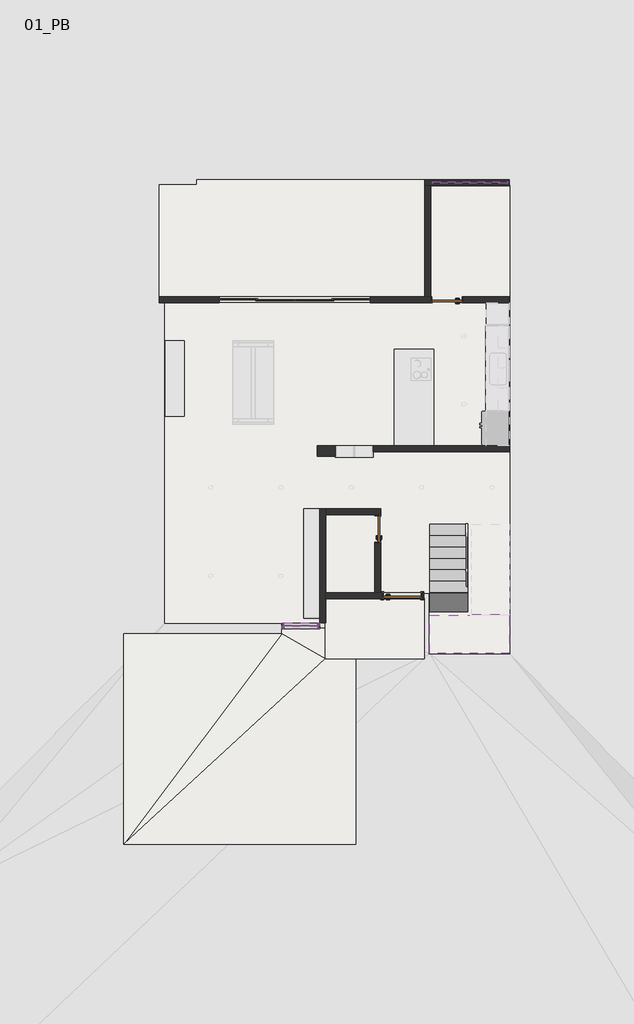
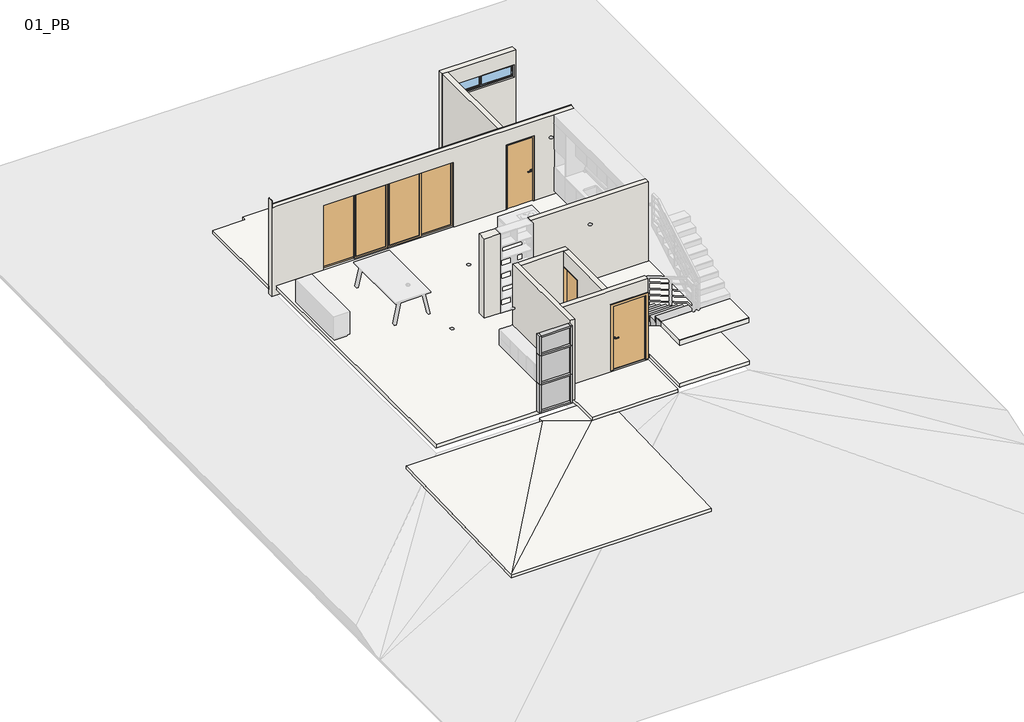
# One storey, part 1 of 2: 10 members, 9 walls, 7 slabs, 5 doors, 3 plates, 1 stair flight, 1 window.
"""IFC4 building model written with IfcOpenShell, lengths in millimetres."""

from ifc_helpers import new_model, si_unit, frame, origin, place, context, project, spatial, polyline, outline, extrude, faceted_brep, transform, mapped, element, save
from components import door_0_75x2_10_m_d5b717f6, door_0_80x2_10_m_f795b408, door_1_00x2_10_m_2c351bbd, door_2_10x2_00_m_3076c86e, door_2_10x2_00_m_72350d4a, montante_rectangular_50_x_150mm_negro_35d6a770, montante_rectangular_50_x_150mm_negro_3ddb3363, montante_rectangular_50_x_150mm_negro_4f41d6b7, montante_rectangular_50_x_150mm_negro_e77f96f9, panel_de_sistema_cristal_6_mm_519516f2, panel_de_sistema_cristal_6_mm_005e9894, panel_de_sistema_cristal_6_mm_a6e31bd9, window_2_00_x_0_40_m_702c2130

model = new_model("IFC4")

# Units and contexts
model_context = context("Model", 3, world=origin())
ifc_project = project(units=[si_unit("LENGTHUNIT", "METRE", prefix="MILLI")], contexts=[model_context])

# Site, building, storey
site = spatial("IfcSite", under=ifc_project)
building = spatial("IfcBuilding", under=site)
storey = spatial("IfcBuildingStorey", under=building, Name="01_PB", Elevation=300.0)

# Doors
placement = place(None, origin())
door_0_75x2_10_m_shape = door_0_75x2_10_m_d5b717f6(model_context)
element("IfcDoor", 1, ObjectType="PUERTA DE  MADERA-CEDRO : 0.75X2.10 M", at=placement, inside=storey, context=model_context, shape_type="MappedRepresentation", body=[
    mapped(door_0_75x2_10_m_shape, transform((9611.5346352, 2261.9853574, 300.0), x_axis=(0.0, -1.0, 0.0), y_axis=(1.0, 0.0, 0.0), z_axis=(0.0, 0.0, 1.0))),
])
door_0_80x2_10_m_shape = door_0_80x2_10_m_f795b408(model_context)
element("IfcDoor", 2, ObjectType="PUERTA DE  MADERA-CEDRO : 0.80X2.10 M", at=placement, inside=storey, context=model_context, shape_type="MappedRepresentation", body=[
    mapped(door_0_80x2_10_m_shape, transform((11441.5346352, 8321.9853574, 300.0), x_axis=(1.0, 0.0, 0.0), y_axis=(0.0, 1.0, 0.0), z_axis=(0.0, 0.0, 1.0))),
])
door_1_00x2_10_m_shape = door_1_00x2_10_m_2c351bbd(model_context)
element("IfcDoor", 3, ObjectType="PUERTA DE  MADERA-CEDRO : 1.00x2.10 M", at=placement, inside=storey, context=model_context, shape_type="MappedRepresentation", body=[
    mapped(door_1_00x2_10_m_shape, transform((10261.5346352, 501.9853574, 300.0), x_axis=(-1.0, 0.0, 0.0), y_axis=(0.0, -1.0, 0.0), z_axis=(0.0, 0.0, 1.0))),
])
door_2_10x2_00_m_shape = door_2_10x2_00_m_3076c86e(model_context)
element("IfcDoor", 4, ObjectType="PUERTA CORREDIZA DE CRISTAL : 2.10x2.00 m", at=placement, inside=storey, context=model_context, shape_type="MappedRepresentation", body=[
    mapped(door_2_10x2_00_m_shape, transform((8416.5346352, 8321.9853574, 300.0), x_axis=(1.0, 0.0, 0.0), y_axis=(0.0, 1.0, 0.0), z_axis=(0.0, 0.0, 1.0))),
])
door_2_10x2_00_m_2_shape = door_2_10x2_00_m_72350d4a(model_context)
element("IfcDoor", 5, ObjectType="PUERTA CORREDIZA DE CRISTAL : 2.10x2.00 m", at=placement, inside=storey, context=model_context, shape_type="MappedRepresentation", body=[
    mapped(door_2_10x2_00_m_2_shape, transform((6416.5346352, 8321.9853574, 300.0), x_axis=(-1.0, 0.0, 0.0), y_axis=(0.0, -1.0, 0.0), z_axis=(0.0, 0.0, 1.0))),
])

# Members
montante_rectangular_50_x_150mm_negro_shape = montante_rectangular_50_x_150mm_negro_35d6a770(model_context)
element("IfcMember", 6, ObjectType="Montante rectangular : 50 x 150mm Negro", at=placement, inside=storey, context=model_context, shape_type="MappedRepresentation", body=[
    mapped(montante_rectangular_50_x_150mm_negro_shape, transform((8021.5346352, -298.0146426, 2800.0), x_axis=(0.0, 0.0, 1.0), y_axis=(0.0, -1.0, 0.0), z_axis=(1.0, 0.0, 0.0))),
])
element("IfcMember", 7, ObjectType="Montante rectangular : 50 x 150mm Negro", at=placement, inside=storey, context=model_context, shape_type="MappedRepresentation", body=[
    mapped(montante_rectangular_50_x_150mm_negro_shape, transform((7121.5346352, -298.0146426, 300.0), x_axis=(0.0, 0.0, -1.0), y_axis=(0.0, -1.0, 0.0), z_axis=(-1.0, 0.0, 0.0))),
])
montante_rectangular_50_x_150mm_negro_2_shape = montante_rectangular_50_x_150mm_negro_3ddb3363(model_context)
element("IfcMember", 8, ObjectType="Montante rectangular : 50 x 150mm Negro", at=placement, inside=storey, context=model_context, shape_type="MappedRepresentation", body=[
    mapped(montante_rectangular_50_x_150mm_negro_2_shape, transform((8021.5346352, -298.0146426, 2166.6666667), x_axis=(0.0, 0.0, 1.0), y_axis=(0.0, -1.0, 0.0), z_axis=(1.0, 0.0, 0.0))),
])
element("IfcMember", 9, ObjectType="Montante rectangular : 50 x 150mm Negro", at=placement, inside=storey, context=model_context, shape_type="MappedRepresentation", body=[
    mapped(montante_rectangular_50_x_150mm_negro_2_shape, transform((8021.5346352, -298.0146426, 1233.3333333), x_axis=(0.0, 0.0, 1.0), y_axis=(0.0, -1.0, 0.0), z_axis=(1.0, 0.0, 0.0))),
])
montante_rectangular_50_x_150mm_negro_3_shape = montante_rectangular_50_x_150mm_negro_4f41d6b7(model_context)
element("IfcMember", 10, ObjectType="Montante rectangular : 50 x 150mm Negro", at=placement, inside=storey, context=model_context, shape_type="MappedRepresentation", body=[
    mapped(montante_rectangular_50_x_150mm_negro_3_shape, transform((8071.5346352, -298.0146426, 300.0), x_axis=(1.0, 0.0, 0.0), y_axis=(0.0, -1.0, 0.0), z_axis=(0.0, 0.0, -1.0))),
])
element("IfcMember", 11, ObjectType="Montante rectangular : 50 x 150mm Negro", at=placement, inside=storey, context=model_context, shape_type="MappedRepresentation", body=[
    mapped(montante_rectangular_50_x_150mm_negro_3_shape, transform((8071.5346352, -298.0146426, 1233.3333333), x_axis=(1.0, 0.0, 0.0), y_axis=(0.0, -1.0, 0.0), z_axis=(0.0, 0.0, -1.0))),
])
element("IfcMember", 12, ObjectType="Montante rectangular : 50 x 150mm Negro", at=placement, inside=storey, context=model_context, shape_type="MappedRepresentation", body=[
    mapped(montante_rectangular_50_x_150mm_negro_3_shape, transform((7071.5346352, -298.0146426, 2166.6666667), x_axis=(-1.0, 0.0, 0.0), y_axis=(0.0, -1.0, 0.0), z_axis=(0.0, 0.0, 1.0))),
])
element("IfcMember", 13, ObjectType="Montante rectangular : 50 x 150mm Negro", at=placement, inside=storey, context=model_context, shape_type="MappedRepresentation", body=[
    mapped(montante_rectangular_50_x_150mm_negro_3_shape, transform((7071.5346352, -298.0146426, 1233.3333333), x_axis=(-1.0, 0.0, 0.0), y_axis=(0.0, -1.0, 0.0), z_axis=(0.0, 0.0, 1.0))),
])
montante_rectangular_50_x_150mm_negro_4_shape = montante_rectangular_50_x_150mm_negro_e77f96f9(model_context)
element("IfcMember", 14, ObjectType="Montante rectangular : 50 x 150mm Negro", at=placement, inside=storey, context=model_context, shape_type="MappedRepresentation", body=[
    mapped(montante_rectangular_50_x_150mm_negro_4_shape, transform((7071.5346352, -298.0146426, 2800.0), x_axis=(-1.0, 0.0, 0.0), y_axis=(0.0, -1.0, 0.0), z_axis=(0.0, 0.0, 1.0))),
])
element("IfcMember", 15, ObjectType="Montante rectangular : 50 x 150mm Negro", at=placement, inside=storey, context=model_context, shape_type="MappedRepresentation", body=[
    mapped(montante_rectangular_50_x_150mm_negro_4_shape, transform((8071.5346352, -298.0146426, 2166.6666667), x_axis=(1.0, 0.0, 0.0), y_axis=(0.0, -1.0, 0.0), z_axis=(0.0, 0.0, -1.0))),
])

# Plates
panel_de_sistema_cristal_6_mm_shape = panel_de_sistema_cristal_6_mm_519516f2(model_context)
element("IfcPlate", 16, ObjectType="Panel de sistema : CRISTAL 6 MM", at=placement, inside=storey, context=model_context, shape_type="MappedRepresentation", body=[
    mapped(panel_de_sistema_cristal_6_mm_shape, transform((7571.5346352, -298.0146426, 350.0), x_axis=(1.0, 0.0, 0.0), y_axis=(0.0, 1.0, 0.0), z_axis=(0.0, 0.0, 1.0))),
])
panel_de_sistema_cristal_6_mm_2_shape = panel_de_sistema_cristal_6_mm_005e9894(model_context)
element("IfcPlate", 17, ObjectType="Panel de sistema : CRISTAL 6 MM", at=placement, inside=storey, context=model_context, shape_type="MappedRepresentation", body=[
    mapped(panel_de_sistema_cristal_6_mm_2_shape, transform((7571.5346352, -298.0146426, 1258.3333333), x_axis=(1.0, 0.0, 0.0), y_axis=(0.0, 1.0, 0.0), z_axis=(0.0, 0.0, 1.0))),
])
panel_de_sistema_cristal_6_mm_3_shape = panel_de_sistema_cristal_6_mm_a6e31bd9(model_context)
element("IfcPlate", 18, ObjectType="Panel de sistema : CRISTAL 6 MM", at=placement, inside=storey, context=model_context, shape_type="MappedRepresentation", body=[
    mapped(panel_de_sistema_cristal_6_mm_3_shape, transform((7571.5346352, -298.0146426, 2191.6666667), x_axis=(1.0, 0.0, 0.0), y_axis=(0.0, 1.0, 0.0), z_axis=(0.0, 0.0, 1.0))),
])

# Slabs
element("IfcSlab", 19, ObjectType="FIRME DE CONCRETO 10 CM + PISO 60X60", at=placement, inside=storey, context=model_context, shape_type="Brep", body=[
    faceted_brep([(3976.5346352, 8256.9853574, 185.0), (10996.5346352, 8256.9853574, 185.0), (10996.5346352, 8401.9853574, 185.0), (10996.5346352, 11341.9853574, 185.0), (10996.5346352, 11356.9853574, 185.0), (13091.5346352, 11356.9853574, 185.0), (13106.5346352, 11356.9853574, 185.0), (13106.5346352, -1018.0146426, 185.0), (13106.5346352, -1033.0146426, 185.0), (10991.5346352, -1033.0146426, 185.0), (10976.5346352, -1033.0146426, 185.0), (10976.5346352, 566.9853574, 185.0), (8086.5346352, 566.9853574, 185.0), (8086.5346352, -233.0146426, 185.0), (3976.5346352, -233.0146426, 185.0), (3976.5346352, -218.0146426, 185.0), (3976.5346352, 8241.9853574, 185.0), (3976.5346352, 8256.9853574, 300.0), (3976.5346352, 8241.9853574, 300.0), (3976.5346352, -218.0146426, 300.0), (3976.5346352, -233.0146426, 300.0), (8086.5346352, -233.0146426, 300.0), (8086.5346352, 566.9853574, 300.0), (10976.5346352, 566.9853574, 300.0), (10976.5346352, -1033.0146426, 300.0), (10991.5346352, -1033.0146426, 300.0), (13106.5346352, -1033.0146426, 300.0), (13106.5346352, -1018.0146426, 300.0), (13106.5346352, 11356.9853574, 300.0), (13091.5346352, 11356.9853574, 300.0), (10996.5346352, 11356.9853574, 300.0), (10996.5346352, 11341.9853574, 300.0), (10996.5346352, 8401.9853574, 300.0), (10996.5346352, 8256.9853574, 300.0), (9416.5346352, 8256.9853574, 300.0), (5416.5346352, 8256.9853574, 300.0)], [[[0, 1, 2, 3, 4, 5, 6, 7, 8, 9, 10, 11, 12, 13, 14, 15, 16]], [[17, 18, 19, 20, 21, 22, 23, 24, 25, 26, 27, 28, 29, 30, 31, 32, 33, 34, 35]], [[1, 0, 17, 35, 34, 33]], [[8, 7, 6, 28, 27, 26]], [[10, 9, 8, 26, 25, 24]], [[11, 10, 24, 23]], [[12, 11, 23, 22]], [[13, 12, 22, 21]], [[14, 13, 21, 20]], [[0, 16, 15, 14, 20, 19, 18, 17]], [[4, 3, 2, 1, 33, 32, 31, 30]], [[6, 5, 4, 30, 29, 28]]]),
])
element("IfcSlab", 20, ObjectType="FIRME DE CONCRETO EXT 10 CM", at=placement, inside=storey, context=model_context, shape_type="Brep", body=[
    faceted_brep([(10866.5346352, 8386.9853574, 150.0), (3981.5346352, 8386.9853574, 150.0), (3881.5346352, 8386.9853574, 150.0), (3831.5346352, 8386.9853574, 150.0), (3831.5346352, 8401.9853574, 150.0), (3831.5346352, 11361.9853574, 150.0), (4831.5346352, 11361.9853574, 150.0), (4831.5346352, 11501.9853574, 150.0), (10851.5346352, 11501.9853574, 150.0), (10866.5346352, 11501.9853574, 150.0), (10866.5346352, 11451.9853574, 150.0), (10866.5346352, 11351.9853574, 150.0), (10866.5346352, 11341.9853574, 150.0), (10866.5346352, 8401.9853574, 150.0), (3831.5346352, 8386.9853574, 250.0), (10866.5346352, 8386.9853574, 250.0), (10866.5346352, 8401.9853574, 250.0), (10866.5346352, 11341.9853574, 250.0), (10866.5346352, 11501.9853574, 250.0), (10851.5346352, 11501.9853574, 250.0), (4831.5346352, 11501.9853574, 250.0), (4831.5346352, 11361.9853574, 250.0), (3831.5346352, 11361.9853574, 250.0), (3831.5346352, 8401.9853574, 250.0)], [[[0, 1, 2, 3, 4, 5, 6, 7, 8, 9, 10, 11, 12, 13]], [[14, 15, 16, 17, 18, 19, 20, 21, 22, 23]], [[3, 14, 23, 22, 5, 4]], [[18, 9, 8, 7, 20, 19]], [[3, 2, 1, 0, 15, 14]], [[21, 6, 5, 22]], [[6, 21, 20, 7]], [[0, 13, 12, 11, 10, 9, 18, 17, 16, 15]]]),
])
element("IfcSlab", 21, ObjectType="FIRME DE CONCRETO EXT 10 CM", at=placement, inside=storey, context=model_context, shape_type="Brep", body=[
    faceted_brep([(2896.5346352, -6078.0146426, -100.0), (2896.5346352, -6078.0146426, 0.0), (2896.5346352, -513.0146426, 150.0), (2896.5346352, -513.0146426, 50.0), (2896.5346352, -2368.0146426, 0.0), (2911.5346352, -513.0146426, 150.0), (3831.5346352, -513.0146426, 150.0), (7071.5346352, -513.0146426, 150.0), (7071.5346352, -513.0146426, 50.0), (3831.5346352, -513.0146426, 50.0), (2911.5346352, -513.0146426, 50.0), (9031.5346352, -1163.0146426, 50.0), (9031.5346352, -1163.0146426, 150.0), (9031.5346352, -6078.0146426, 0.0), (9031.5346352, -6078.0146426, -100.0), (2911.5346352, -6078.0146426, 0.0), (8216.5346352, -363.0146426, 50.0), (8216.5346352, -363.0146426, 150.0), (8216.5346352, -378.0146426, 150.0), (8216.5346352, -1163.0146426, 150.0), (8216.5346352, -1163.0146426, 50.0), (8216.5346352, -378.0146426, 50.0), (7071.5346352, -378.0146426, 150.0), (7071.5346352, -363.0146426, 150.0), (7071.5346352, -363.0146426, 50.0), (7071.5346352, -378.0146426, 50.0), (2911.5346352, -6064.1565599, 0.4229323), (2911.5346352, -6058.0206306, 0.5389222), (7060.2812659, -528.0146426, 149.5956873), (7060.2812659, -528.0146426, 49.5956873)], [[[0, 1, 2, 3, 4]], [[3, 2, 5, 6, 7, 8, 9, 10]], [[11, 12, 13, 14]], [[14, 13, 15, 1, 0]], [[16, 17, 18, 19, 20, 21]], [[20, 19, 12, 11]], [[8, 7, 22, 23, 24, 25]], [[24, 23, 17, 16]], [[13, 12, 19, 26, 1, 15]], [[14, 0, 20, 11]], [[2, 1, 27, 28, 7, 6, 5]], [[1, 26, 19, 7, 28, 27]], [[19, 18, 17, 23, 22, 7]], [[3, 10, 9, 8, 29, 0, 4]], [[0, 29, 8, 20]], [[20, 8, 25, 24, 16, 21]]]),
])
element("IfcSlab", 22, ObjectType="FIRME DE CONCRETO EXT 10 CM", at=placement, inside=storey, context=model_context, shape_type="Brep", body=[
    faceted_brep([(10846.5346352, -1163.0146426, 150.0), (10831.5346352, -1163.0146426, 150.0), (8316.5346352, -1163.0146426, 150.0), (8216.5346352, -1163.0146426, 150.0), (8216.5346352, -1113.0146426, 150.0), (8216.5346352, -1013.0146426, 150.0), (8216.5346352, 436.9853574, 150.0), (8316.5346352, 436.9853574, 150.0), (10831.5346352, 436.9853574, 150.0), (10846.5346352, 436.9853574, 150.0), (10846.5346352, -1013.0146426, 150.0), (10846.5346352, -1113.0146426, 150.0), (10846.5346352, -1163.0146426, 250.0), (10846.5346352, 436.9853574, 250.0), (10831.5346352, 436.9853574, 250.0), (8216.5346352, 436.9853574, 250.0), (8216.5346352, -1163.0146426, 250.0), (10831.5346352, -1163.0146426, 250.0)], [[[0, 1, 2, 3, 4, 5, 6, 7, 8, 9, 10, 11]], [[12, 13, 14, 15, 16, 17]], [[6, 5, 4, 3, 16, 15]], [[9, 8, 7, 6, 15, 14, 13]], [[0, 11, 10, 9, 13, 12]], [[3, 2, 1, 0, 12, 17, 16]]]),
])
element("IfcSlab", 23, ObjectType="10 CM", at=placement, inside=storey, context=model_context, shape_type="SolidModel", body=[
    faceted_brep([(11991.5346352, -18.0146426, 1680.0), (10991.5346352, -18.0146426, 1680.0), (10991.5346352, -1018.0146426, 1680.0), (13091.5346352, -1018.0146426, 1680.0), (13091.5346352, -56.6940141, 1680.0), (13091.5346352, -18.0146426, 1680.0), (13091.5346352, 1.9853574, 1680.0), (12091.5346352, 1.9853574, 1680.0), (12091.5346352, -18.0146426, 1680.0), (11991.5346352, -18.0146426, 1530.0), (10991.5346352, -18.0146426, 1530.0), (10991.5346352, -1018.0146426, 1530.0), (13091.5346352, -1018.0146426, 1530.0), (13091.5346352, -56.6940141, 1530.0), (13091.5346352, -18.0146426, 1552.5629668), (13091.5346352, 1.9853574, 1564.2296334), (12091.5346352, 1.9853574, 1564.2296334), (12091.5346352, -18.0146426, 1552.5629668), (12091.5346352, -18.0146426, 1530.0), (12091.5346352, -56.6940141, 1530.0)], [[[0, 1, 2, 3, 4, 5, 6, 7, 8]], [[1, 0, 9, 10]], [[2, 1, 10, 11]], [[3, 2, 11, 12]], [[3, 12, 13, 14, 5, 4]], [[6, 5, 14, 15]], [[7, 6, 15, 16]], [[8, 7, 16, 17]], [[0, 8, 17, 18, 9]], [[18, 19, 13, 12, 11, 10, 9]], [[13, 19, 17, 16, 15, 14]], [[19, 18, 17]]]),
    extrude(outline(polyline([(11991.5346352, -18.0146426), (12091.5346352, -18.0146426), (13091.5346352, -18.0146426), (13091.5346352, -1018.0146426), (10991.5346352, -1018.0146426), (10991.5346352, -18.0146426), (11991.5346352, -18.0146426)])), frame((0.0, 0.0, 1680.0), z_axis=(0.0, 0.0, 1.0), x_axis=(1.0, 0.0, 0.0)), (0.0, 0.0, 1.0), 20.0),
])
element("IfcSlab", 24, ObjectType="Plataforma exterior", at=placement, inside=storey, context=model_context, shape_type="SweptSolid", body=[
    extrude(outline(polyline([(10851.5346352, 8401.9853574), (3981.5346352, 8401.9853574), (3981.5346352, 11351.9853574), (10851.5346352, 11351.9853574), (10851.5346352, 8401.9853574)])), frame((0.0, 0.0, 184.0), z_axis=(0.0, 0.0, 1.0), x_axis=(1.0, 0.0, 0.0)), (0.0, 0.0, 1.0), 1.0),
])
element("IfcSlab", 25, ObjectType="Plataforma interior", at=placement, inside=storey, context=model_context, shape_type="SweptSolid", body=[
    extrude(outline(polyline([(3991.5346352, 8241.9853574), (11011.5346352, 8241.9853574), (11011.5346352, 11341.9853574), (13091.5346352, 11341.9853574), (13091.5346352, -1018.0146426), (10991.5346352, -1018.0146426), (10991.5346352, 581.9853574), (8071.5346352, 581.9853574), (8071.5346352, -218.0146426), (3991.5346352, -218.0146426), (3991.5346352, 8241.9853574)])), frame((0.0, 0.0, 180.0), z_axis=(0.0, 0.0, 1.0), x_axis=(1.0, 0.0, 0.0)), (0.0, 0.0, 1.0), 5.0),
])

# Stair flight
element("IfcStairFlight", 26, ObjectType="10 CM TRAMO LISO+ACABADO", at=placement, inside=storey, context=model_context, shape_type="SolidModel", body=[
    faceted_brep([(11991.5346352, 2061.9853574, 455.0), (11991.5346352, 2361.9853574, 455.0), (10991.5346352, 2361.9853574, 455.0), (10991.5346352, 2061.9853574, 455.0), (11991.5346352, 2061.9853574, 339.2296334), (11991.5346352, 2129.2361576, 300.0), (11991.5346352, 2361.9853574, 300.0), (10991.5346352, 2361.9853574, 300.0), (10991.5346352, 2129.2361576, 300.0), (10991.5346352, 2061.9853574, 339.2296334), (11991.5346352, 1761.9853574, 630.0), (11991.5346352, 2061.9853574, 630.0), (10991.5346352, 2061.9853574, 630.0), (10991.5346352, 1761.9853574, 630.0), (11991.5346352, 1761.9853574, 514.2296334), (10991.5346352, 1761.9853574, 514.2296334), (11991.5346352, 1461.9853574, 805.0), (11991.5346352, 1761.9853574, 805.0), (10991.5346352, 1761.9853574, 805.0), (10991.5346352, 1461.9853574, 805.0), (11991.5346352, 1461.9853574, 689.2296334), (10991.5346352, 1461.9853574, 689.2296334), (11991.5346352, 1161.9853574, 980.0), (11991.5346352, 1461.9853574, 980.0), (10991.5346352, 1461.9853574, 980.0), (10991.5346352, 1161.9853574, 980.0), (11991.5346352, 1161.9853574, 864.2296334), (10991.5346352, 1161.9853574, 864.2296334), (11991.5346352, 861.9853574, 1155.0), (11991.5346352, 1161.9853574, 1155.0), (10991.5346352, 1161.9853574, 1155.0), (10991.5346352, 861.9853574, 1155.0), (11991.5346352, 861.9853574, 1039.2296334), (10991.5346352, 861.9853574, 1039.2296334), (11991.5346352, 561.9853574, 1330.0), (11991.5346352, 861.9853574, 1330.0), (10991.5346352, 861.9853574, 1330.0), (10991.5346352, 561.9853574, 1330.0), (11991.5346352, 561.9853574, 1214.2296334), (10991.5346352, 561.9853574, 1214.2296334), (11991.5346352, 261.9853574, 1505.0), (11991.5346352, 561.9853574, 1505.0), (10991.5346352, 561.9853574, 1505.0), (10991.5346352, 261.9853574, 1505.0), (11991.5346352, 261.9853574, 1389.2296334), (10991.5346352, 261.9853574, 1389.2296334), (11991.5346352, 261.9853574, 1680.0), (10991.5346352, 261.9853574, 1680.0), (10991.5346352, 20.664729, 1680.0), (10991.5346352, -18.0146426, 1680.0), (11991.5346352, -18.0146426, 1680.0), (11991.5346352, 20.664729, 1680.0), (11991.5346352, -18.0146426, 1530.0), (11991.5346352, 20.664729, 1530.0), (10991.5346352, 20.664729, 1530.0), (10991.5346352, -18.0146426, 1530.0)], [[[0, 1, 2, 3]], [[1, 0, 4, 5, 6]], [[2, 1, 6, 7]], [[3, 2, 7, 8, 9]], [[10, 11, 12, 13]], [[11, 10, 14, 4, 0]], [[0, 3, 12, 11]], [[13, 12, 3, 9, 15]], [[16, 17, 18, 19]], [[17, 16, 20, 14, 10]], [[10, 13, 18, 17]], [[19, 18, 13, 15, 21]], [[22, 23, 24, 25]], [[23, 22, 26, 20, 16]], [[16, 19, 24, 23]], [[25, 24, 19, 21, 27]], [[28, 29, 30, 31]], [[29, 28, 32, 26, 22]], [[22, 25, 30, 29]], [[31, 30, 25, 27, 33]], [[34, 35, 36, 37]], [[35, 34, 38, 32, 28]], [[28, 31, 36, 35]], [[37, 36, 31, 33, 39]], [[40, 41, 42, 43]], [[41, 40, 44, 38, 34]], [[34, 37, 42, 41]], [[43, 42, 37, 39, 45]], [[46, 47, 48, 49, 50, 51]], [[40, 46, 51, 50, 52, 53, 44]], [[40, 43, 47, 46]], [[47, 43, 45, 54, 55, 49, 48]], [[50, 49, 55, 52]], [[7, 6, 5, 8]], [[53, 54, 45, 39, 33, 27, 21, 15, 9, 8, 5, 4, 14, 20, 26, 32, 38, 44]], [[54, 53, 52, 55]]]),
    extrude(outline(polyline([(10991.5346352, 2361.9853574), (10991.5346352, 2381.9853574), (11991.5346352, 2381.9853574), (11991.5346352, 2361.9853574), (10991.5346352, 2361.9853574)])), frame((0.0, 0.0, 300.0), z_axis=(0.0, 0.0, 1.0), x_axis=(1.0, 0.0, 0.0)), (0.0, 0.0, 1.0), 155.0),
    extrude(outline(polyline([(11991.5346352, 2081.9853574), (10991.5346352, 2081.9853574), (10991.5346352, 2381.9853574), (11991.5346352, 2381.9853574), (11991.5346352, 2081.9853574)])), frame((0.0, 0.0, 455.0), z_axis=(0.0, 0.0, 1.0), x_axis=(1.0, 0.0, 0.0)), (0.0, 0.0, 1.0), 20.0),
    extrude(outline(polyline([(10991.5346352, 2061.9853574), (10991.5346352, 2081.9853574), (11991.5346352, 2081.9853574), (11991.5346352, 2061.9853574), (10991.5346352, 2061.9853574)])), frame((0.0, 0.0, 455.0), z_axis=(0.0, 0.0, 1.0), x_axis=(1.0, 0.0, 0.0)), (0.0, 0.0, 1.0), 175.0),
    extrude(outline(polyline([(11991.5346352, 1781.9853574), (10991.5346352, 1781.9853574), (10991.5346352, 2081.9853574), (11991.5346352, 2081.9853574), (11991.5346352, 1781.9853574)])), frame((0.0, 0.0, 630.0), z_axis=(0.0, 0.0, 1.0), x_axis=(1.0, 0.0, 0.0)), (0.0, 0.0, 1.0), 20.0),
    extrude(outline(polyline([(10991.5346352, 1761.9853574), (10991.5346352, 1781.9853574), (11991.5346352, 1781.9853574), (11991.5346352, 1761.9853574), (10991.5346352, 1761.9853574)])), frame((0.0, 0.0, 630.0), z_axis=(0.0, 0.0, 1.0), x_axis=(1.0, 0.0, 0.0)), (0.0, 0.0, 1.0), 175.0),
    extrude(outline(polyline([(11991.5346352, 1481.9853574), (10991.5346352, 1481.9853574), (10991.5346352, 1781.9853574), (11991.5346352, 1781.9853574), (11991.5346352, 1481.9853574)])), frame((0.0, 0.0, 805.0), z_axis=(0.0, 0.0, 1.0), x_axis=(1.0, 0.0, 0.0)), (0.0, 0.0, 1.0), 20.0),
    extrude(outline(polyline([(10991.5346352, 1461.9853574), (10991.5346352, 1481.9853574), (11991.5346352, 1481.9853574), (11991.5346352, 1461.9853574), (10991.5346352, 1461.9853574)])), frame((0.0, 0.0, 805.0), z_axis=(0.0, 0.0, 1.0), x_axis=(1.0, 0.0, 0.0)), (0.0, 0.0, 1.0), 175.0),
    extrude(outline(polyline([(11991.5346352, 1181.9853574), (10991.5346352, 1181.9853574), (10991.5346352, 1481.9853574), (11991.5346352, 1481.9853574), (11991.5346352, 1181.9853574)])), frame((0.0, 0.0, 980.0), z_axis=(0.0, 0.0, 1.0), x_axis=(1.0, 0.0, 0.0)), (0.0, 0.0, 1.0), 20.0),
    extrude(outline(polyline([(10991.5346352, 1161.9853574), (10991.5346352, 1181.9853574), (11991.5346352, 1181.9853574), (11991.5346352, 1161.9853574), (10991.5346352, 1161.9853574)])), frame((0.0, 0.0, 980.0), z_axis=(0.0, 0.0, 1.0), x_axis=(1.0, 0.0, 0.0)), (0.0, 0.0, 1.0), 175.0),
    extrude(outline(polyline([(11991.5346352, 881.9853574), (10991.5346352, 881.9853574), (10991.5346352, 1181.9853574), (11991.5346352, 1181.9853574), (11991.5346352, 881.9853574)])), frame((0.0, 0.0, 1155.0), z_axis=(0.0, 0.0, 1.0), x_axis=(1.0, 0.0, 0.0)), (0.0, 0.0, 1.0), 20.0),
    extrude(outline(polyline([(10991.5346352, 861.9853574), (10991.5346352, 881.9853574), (11991.5346352, 881.9853574), (11991.5346352, 861.9853574), (10991.5346352, 861.9853574)])), frame((0.0, 0.0, 1155.0), z_axis=(0.0, 0.0, 1.0), x_axis=(1.0, 0.0, 0.0)), (0.0, 0.0, 1.0), 175.0),
    extrude(outline(polyline([(11991.5346352, 581.9853574), (10991.5346352, 581.9853574), (10991.5346352, 881.9853574), (11991.5346352, 881.9853574), (11991.5346352, 581.9853574)])), frame((0.0, 0.0, 1330.0), z_axis=(0.0, 0.0, 1.0), x_axis=(1.0, 0.0, 0.0)), (0.0, 0.0, 1.0), 20.0),
    extrude(outline(polyline([(10991.5346352, 561.9853574), (10991.5346352, 581.9853574), (11991.5346352, 581.9853574), (11991.5346352, 561.9853574), (10991.5346352, 561.9853574)])), frame((0.0, 0.0, 1330.0), z_axis=(0.0, 0.0, 1.0), x_axis=(1.0, 0.0, 0.0)), (0.0, 0.0, 1.0), 175.0),
    extrude(outline(polyline([(11991.5346352, 281.9853574), (10991.5346352, 281.9853574), (10991.5346352, 581.9853574), (11991.5346352, 581.9853574), (11991.5346352, 281.9853574)])), frame((0.0, 0.0, 1505.0), z_axis=(0.0, 0.0, 1.0), x_axis=(1.0, 0.0, 0.0)), (0.0, 0.0, 1.0), 20.0),
    extrude(outline(polyline([(10991.5346352, 261.9853574), (10991.5346352, 281.9853574), (11991.5346352, 281.9853574), (11991.5346352, 261.9853574), (10991.5346352, 261.9853574)])), frame((0.0, 0.0, 1505.0), z_axis=(0.0, 0.0, 1.0), x_axis=(1.0, 0.0, 0.0)), (0.0, 0.0, 1.0), 175.0),
    extrude(outline(polyline([(11991.5346352, -18.0146426), (10991.5346352, -18.0146426), (10991.5346352, 281.9853574), (11991.5346352, 281.9853574), (11991.5346352, -18.0146426)])), frame((0.0, 0.0, 1680.0), z_axis=(0.0, 0.0, 1.0), x_axis=(1.0, 0.0, 0.0)), (0.0, 0.0, 1.0), 20.0),
])

# Walls
element("IfcWall", 27, ObjectType="M_TABICÓN_28", at=placement, inside=storey, context=model_context, shape_type="SweptSolid", body=[
    extrude(outline(polyline([(8006.5346352, 4461.9853574), (8491.5346352, 4461.9853574), (8491.5346352, 4181.9853574), (8006.5346352, 4181.9853574), (8006.5346352, 4461.9853574)])), frame((0.0, 0.0, 300.0), z_axis=(0.0, 0.0, 1.0), x_axis=(1.0, 0.0, 0.0)), (0.0, 0.0, 1.0), 2570.0),
])
element("IfcWall", 28, ObjectType="M_LADRILLO_13-YESO+YESO", at=placement, inside=storey, context=model_context, shape_type="Brep", body=[
    faceted_brep([(8231.5346352, -218.0146426, 264.2666725), (8231.5346352, 2801.9853574, 264.2666725), (8231.5346352, 2801.9853574, 300.0), (8231.5346352, 2801.9853574, 2870.0), (8231.5346352, 2641.9853574, 2870.0), (8231.5346352, 581.9853574, 2870.0), (8231.5346352, 421.9853574, 2870.0), (8231.5346352, -218.0146426, 2870.0), (8071.5346352, 2801.9853574, 264.2666725), (8071.5346352, -218.0146426, 264.2666725), (8071.5346352, -218.0146426, 300.0), (8071.5346352, -218.0146426, 2800.0), (8071.5346352, -218.0146426, 2870.0), (8071.5346352, 2801.9853574, 2870.0)], [[[0, 1, 2, 3, 4, 5, 6, 7]], [[8, 9, 10, 11, 12, 13]], [[1, 0, 9, 8]], [[1, 8, 13, 3, 2]], [[9, 0, 7, 12, 11, 10]], [[7, 6, 5, 4, 3, 13, 12]]]),
])
element("IfcWall", 29, ObjectType="M_LADRILLO_13-YESO+YESO", at=placement, inside=storey, context=model_context, shape_type="Brep", body=[
    faceted_brep([(8231.5346352, 421.9853574, 250.0), (10831.5346352, 421.9853574, 250.0), (10831.5346352, 421.9853574, 2870.0), (8231.5346352, 421.9853574, 2870.0), (9731.5346352, 421.9853574, 300.0), (9731.5346352, 421.9853574, 2400.0), (10791.5346352, 421.9853574, 2400.0), (10791.5346352, 421.9853574, 300.0), (10831.5346352, 581.9853574, 250.0), (8231.5346352, 581.9853574, 250.0), (8231.5346352, 581.9853574, 2870.0), (9531.5346352, 581.9853574, 2870.0), (9691.5346352, 581.9853574, 2870.0), (10831.5346352, 581.9853574, 2870.0), (9731.5346352, 581.9853574, 2400.0), (9731.5346352, 581.9853574, 300.0), (10791.5346352, 581.9853574, 300.0), (10791.5346352, 581.9853574, 2400.0), (10831.5346352, 436.9853574, 250.0)], [[[0, 1, 2, 3], [4, 5, 6, 7]], [[8, 9, 10, 11, 12, 13], [14, 15, 16, 17]], [[1, 0, 9, 8, 18]], [[1, 18, 8, 13, 2]], [[9, 0, 3, 10]], [[4, 15, 14, 5]], [[5, 14, 17, 6]], [[16, 7, 6, 17]], [[15, 4, 7, 16]], [[3, 2, 13, 12, 11, 10]]]),
])
element("IfcWall", 30, ObjectType="M_LADRILLO_13-YESO+YESO", at=placement, inside=storey, context=model_context, shape_type="Brep", body=[
    faceted_brep([(13091.5346352, 11501.9853574, 0.0), (10851.5346352, 11501.9853574, 0.0), (10851.5346352, 11501.9853574, 150.0), (10866.5346352, 11501.9853574, 150.0), (10866.5346352, 11501.9853574, 250.0), (10851.5346352, 11501.9853574, 250.0), (10851.5346352, 11501.9853574, 2884.0), (13091.5346352, 11501.9853574, 2884.0), (13051.5346352, 11501.9853574, 2000.0), (13051.5346352, 11501.9853574, 2400.0), (11051.5346352, 11501.9853574, 2400.0), (11051.5346352, 11501.9853574, 2000.0), (10851.5346352, 11341.9853574, 0.0), (13091.5346352, 11341.9853574, 0.0), (13091.5346352, 11341.9853574, 185.0), (10996.5346352, 11341.9853574, 185.0), (10996.5346352, 11341.9853574, 300.0), (11011.5346352, 11341.9853574, 300.0), (13091.5346352, 11341.9853574, 300.0), (13091.5346352, 11341.9853574, 2884.0), (11011.5346352, 11341.9853574, 2884.0), (10851.5346352, 11341.9853574, 2884.0), (10851.5346352, 11341.9853574, 300.0), (10851.5346352, 11341.9853574, 250.0), (10866.5346352, 11341.9853574, 250.0), (10866.5346352, 11341.9853574, 150.0), (10851.5346352, 11341.9853574, 150.0), (13051.5346352, 11341.9853574, 2400.0), (13051.5346352, 11341.9853574, 2000.0), (11051.5346352, 11341.9853574, 2000.0), (11051.5346352, 11341.9853574, 2400.0), (13091.5346352, 11356.9853574, 300.0), (13091.5346352, 11356.9853574, 185.0), (10996.5346352, 11356.9853574, 185.0), (10996.5346352, 11356.9853574, 300.0)], [[[0, 1, 2, 3, 4, 5, 6, 7], [8, 9, 10, 11]], [[12, 13, 14, 15, 16, 17, 18, 19, 20, 21, 22, 23, 24, 25, 26], [27, 28, 29, 30]], [[1, 0, 13, 12]], [[1, 12, 26, 2]], [[21, 6, 5, 23, 22]], [[13, 0, 7, 19, 18, 31, 32, 14]], [[9, 8, 28, 27]], [[10, 9, 27, 30]], [[11, 10, 30, 29]], [[8, 11, 29, 28]], [[3, 2, 26, 25]], [[5, 4, 24, 23]], [[7, 6, 21, 20, 19]], [[3, 25, 24, 4]], [[32, 33, 15, 14]], [[16, 34, 31, 18, 17]], [[33, 34, 16, 15]], [[34, 33, 32, 31]]]),
])
element("IfcWall", 31, ObjectType="M_LADRILLO_13-YESO+YESO", at=placement, inside=storey, context=model_context, shape_type="Brep", body=[
    faceted_brep([(10851.5346352, 11341.9853574, 300.0), (10851.5346352, 8401.9853574, 300.0), (10851.5346352, 8401.9853574, 2884.0), (10851.5346352, 11341.9853574, 2884.0), (11011.5346352, 11341.9853574, 300.0), (11011.5346352, 11341.9853574, 2884.0), (11011.5346352, 8401.9853574, 2884.0), (11011.5346352, 8401.9853574, 2400.0), (11011.5346352, 8401.9853574, 300.0)], [[[0, 1, 2, 3]], [[4, 5, 6, 7, 8]], [[1, 0, 4, 8]], [[0, 3, 5, 4]], [[2, 1, 8, 7, 6]], [[3, 2, 6, 5]]]),
])
element("IfcWall", 32, ObjectType="M_LADRILLO_13-YESO+YESO", at=placement, inside=storey, context=model_context, shape_type="Brep", body=[
    faceted_brep([(13091.5346352, 8401.9853574, 0.0), (3831.5346352, 8401.9853574, 0.0), (3831.5346352, 8401.9853574, 150.0), (10866.5346352, 8401.9853574, 150.0), (10866.5346352, 8401.9853574, 250.0), (3831.5346352, 8401.9853574, 250.0), (3831.5346352, 8401.9853574, 2884.0), (3831.5346352, 8401.9853574, 3100.0), (3846.5346352, 8401.9853574, 3100.0), (3846.5346352, 8401.9853574, 2884.0), (10851.5346352, 8401.9853574, 2884.0), (11011.5346352, 8401.9853574, 2884.0), (13091.5346352, 8401.9853574, 2884.0), (13091.5346352, 8401.9853574, 300.0), (11871.5346352, 8401.9853574, 300.0), (11871.5346352, 8401.9853574, 2400.0), (11011.5346352, 8401.9853574, 2400.0), (11011.5346352, 8401.9853574, 300.0), (10996.5346352, 8401.9853574, 300.0), (10996.5346352, 8401.9853574, 185.0), (13091.5346352, 8401.9853574, 185.0), (9416.5346352, 8401.9853574, 300.0), (9416.5346352, 8401.9853574, 2400.0), (5416.5346352, 8401.9853574, 2400.0), (5416.5346352, 8401.9853574, 300.0), (3831.5346352, 8241.9853574, 0.0), (3991.5346352, 8241.9853574, 0.0), (13091.5346352, 8241.9853574, 0.0), (13091.5346352, 8241.9853574, 185.0), (3991.5346352, 8241.9853574, 185.0), (3976.5346352, 8241.9853574, 185.0), (3976.5346352, 8241.9853574, 300.0), (3991.5346352, 8241.9853574, 300.0), (5416.5346352, 8241.9853574, 300.0), (5416.5346352, 8241.9853574, 2400.0), (9416.5346352, 8241.9853574, 2400.0), (9416.5346352, 8241.9853574, 300.0), (11011.5346352, 8241.9853574, 300.0), (11011.5346352, 8241.9853574, 2400.0), (11871.5346352, 8241.9853574, 2400.0), (11871.5346352, 8241.9853574, 300.0), (13091.5346352, 8241.9853574, 300.0), (13091.5346352, 8241.9853574, 2870.0), (3991.5346352, 8241.9853574, 2870.0), (3846.5346352, 8241.9853574, 2870.0), (3846.5346352, 8241.9853574, 3100.0), (3831.5346352, 8241.9853574, 3100.0), (3846.5346352, 8386.9853574, 3100.0), (13091.5346352, 8386.9853574, 2884.0), (13091.5346352, 8386.9853574, 2870.0), (3831.5346352, 8386.9853574, 250.0), (3831.5346352, 8386.9853574, 150.0), (9416.5346352, 8256.9853574, 300.0), (5416.5346352, 8256.9853574, 300.0), (10996.5346352, 8256.9853574, 185.0), (3976.5346352, 8256.9853574, 185.0), (10996.5346352, 8256.9853574, 300.0), (3976.5346352, 8256.9853574, 300.0), (10866.5346352, 8386.9853574, 150.0), (10866.5346352, 8386.9853574, 250.0), (3846.5346352, 8386.9853574, 2884.0), (3846.5346352, 8386.9853574, 2870.0)], [[[0, 1, 2, 3, 4, 5, 6, 7, 8, 9, 10, 11, 12, 13, 14, 15, 16, 17, 18, 19, 20], [21, 22, 23, 24]], [[25, 26, 27, 28, 29, 30, 31, 32, 33, 34, 35, 36, 37, 38, 39, 40, 41, 42, 43, 44, 45, 46]], [[1, 0, 27, 26, 25]], [[7, 46, 45, 47, 8]], [[27, 0, 20, 28]], [[41, 13, 12, 48, 49, 42]], [[15, 14, 40, 39]], [[16, 15, 39, 38]], [[17, 16, 38, 37]], [[1, 25, 46, 7, 6, 5, 50, 51, 2]], [[35, 22, 21, 52, 36]], [[22, 35, 34, 23]], [[21, 24, 53, 52]], [[23, 34, 33, 53, 24]], [[54, 55, 30, 29, 28, 20, 19]], [[41, 40, 14, 13]], [[52, 56, 18, 17, 37, 36]], [[57, 53, 33, 32, 31]], [[55, 54, 56, 52, 53, 57]], [[55, 57, 31, 30]], [[51, 58, 3, 2]], [[59, 50, 5, 4]], [[58, 51, 50, 59]], [[9, 60, 48, 12, 11, 10]], [[60, 9, 8, 47, 45, 44, 61]], [[49, 61, 44, 43, 42]], [[60, 61, 49, 48]], [[58, 59, 4, 3]], [[56, 54, 19, 18]]]),
])
element("IfcWall", 33, ObjectType="M_LADRILLO_13-YESO+YESO", at=placement, inside=storey, context=model_context, shape_type="Brep", body=[
    faceted_brep([(9691.5346352, 2801.9853574, 300.0), (8231.5346352, 2801.9853574, 300.0), (8231.5346352, 2801.9853574, 2870.0), (9691.5346352, 2801.9853574, 2870.0), (9691.5346352, 2641.9853574, 300.0), (9691.5346352, 2641.9853574, 2400.0), (9691.5346352, 2641.9853574, 2870.0), (9531.5346352, 2641.9853574, 2870.0), (8231.5346352, 2641.9853574, 2870.0), (8231.5346352, 2641.9853574, 300.0)], [[[0, 1, 2, 3]], [[4, 5, 6, 7, 8, 9]], [[1, 0, 4, 9]], [[2, 1, 9, 8]], [[0, 3, 6, 5, 4]], [[3, 2, 8, 7, 6]]]),
])
element("IfcWall", 34, ObjectType="M_LADRILLO_13-YESO+YESO", at=placement, inside=storey, context=model_context, shape_type="SweptSolid", body=[
    extrude(outline(polyline([(581.9853574, 300.0), (581.9853574, 2870.0), (2641.9853574, 2870.0), (2641.9853574, 2400.0), (1881.9853574, 2400.0), (1881.9853574, 300.0), (581.9853574, 300.0)])), frame((9531.5346352, 0.0, 0.0), z_axis=(1.0, 0.0, 0.0), x_axis=(0.0, 1.0, 0.0)), (0.0, 0.0, 1.0), 160.0),
])
element("IfcWall", 35, ObjectType="M_LADRILLO_13-YESO+YESO", at=placement, inside=storey, context=model_context, shape_type="SweptSolid", body=[
    extrude(outline(polyline([(9491.5346352, 4461.9853574), (13091.5346352, 4461.9853574), (13091.5346352, 4301.9853574), (9491.5346352, 4301.9853574), (9491.5346352, 4461.9853574)])), frame((0.0, 0.0, 300.0), z_axis=(0.0, 0.0, 1.0), x_axis=(1.0, 0.0, 0.0)), (0.0, 0.0, 1.0), 2570.0),
])

# Window
window_2_00_x_0_40_m_shape = window_2_00_x_0_40_m_702c2130(model_context)
element("IfcWindow", 36, ObjectType="VENTANA CORREDIZA : 2.00 x 0.40 m", at=placement, inside=storey, context=model_context, shape_type="MappedRepresentation", body=[
    mapped(window_2_00_x_0_40_m_shape, transform((12051.5346352, 11421.9853574, 300.0), x_axis=(-1.0, 0.0, 0.0), y_axis=(0.0, -1.0, 0.0), z_axis=(0.0, 0.0, 1.0))),
])

save(model, "model.ifc")
